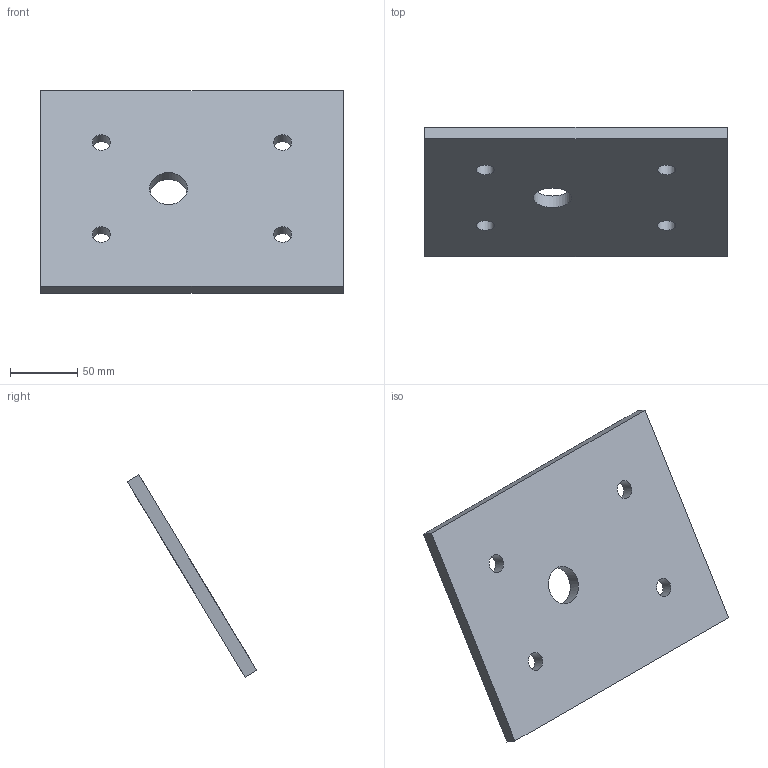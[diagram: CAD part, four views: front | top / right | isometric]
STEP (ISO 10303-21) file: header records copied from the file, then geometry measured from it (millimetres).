
FILE_DESCRIPTION(('Open CASCADE Model'),'2;1');
FILE_NAME('Open CASCADE Shape Model','2026-09-19T12:55:26',('Author'),( 'Open CASCADE'),'Open CASCADE STEP processor 7.9','Open CASCADE 7.9' ,'Unknown');
FILE_SCHEMA(('AUTOMOTIVE_DESIGN { 1 0 10303 214 1 1 1 1 }'));
Length unit declared in the file: millimetre
Products named in the file (1): Open CASCADE STEP translator 7.9 495
Bounding box: 225 x 96.43 x 150.7 mm (x, y, z)
Volume: 370616.9 mm3; surface area: 84599.5 mm2
Topology: 1 solids, 1 shells, 11 faces, 27 edges, 18 vertices
Faces by surface type: plane 6, cylinder 5
Full cylindrical faces by diameter (mm): 13.5 x4, 28 x1
Entity records: 727 total; most frequent: CARTESIAN_POINT 141, DIRECTION 110, LINE 61, VECTOR 61, ORIENTED_EDGE 54, PCURVE 54, DEFINITIONAL_REPRESENTATION 54, EDGE_CURVE 27
